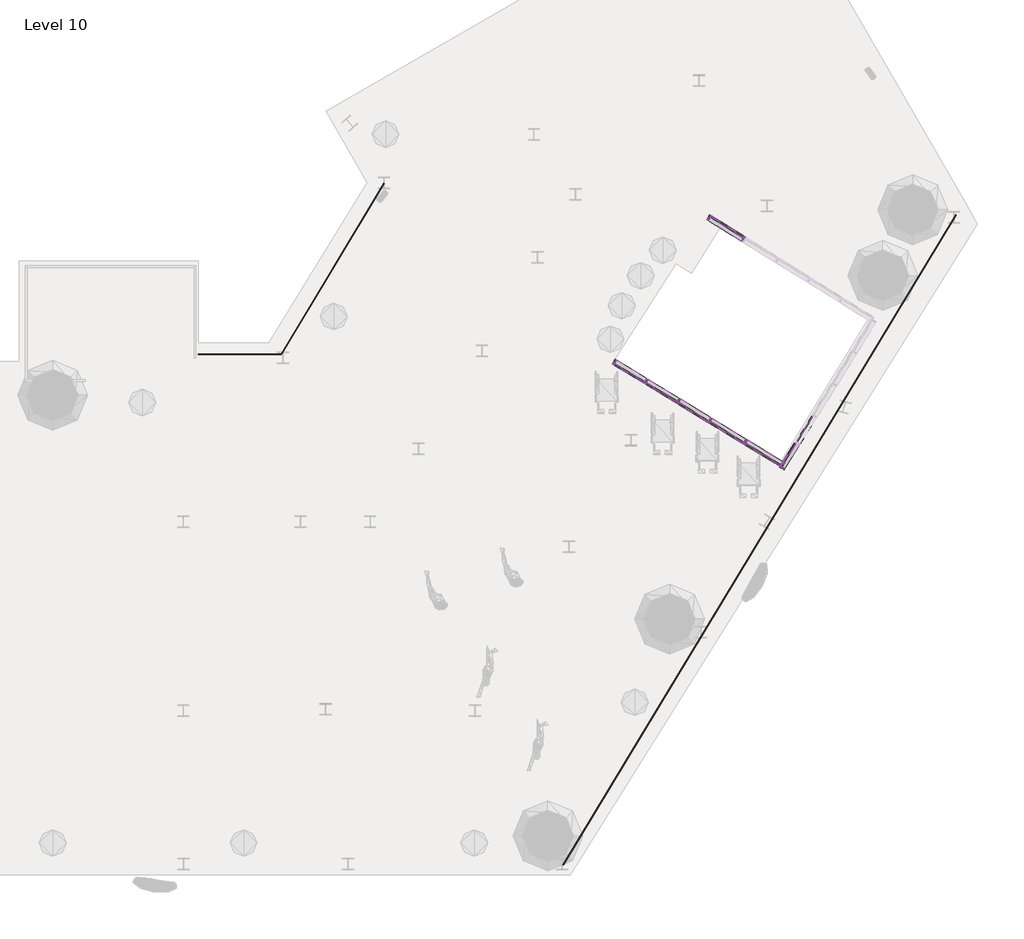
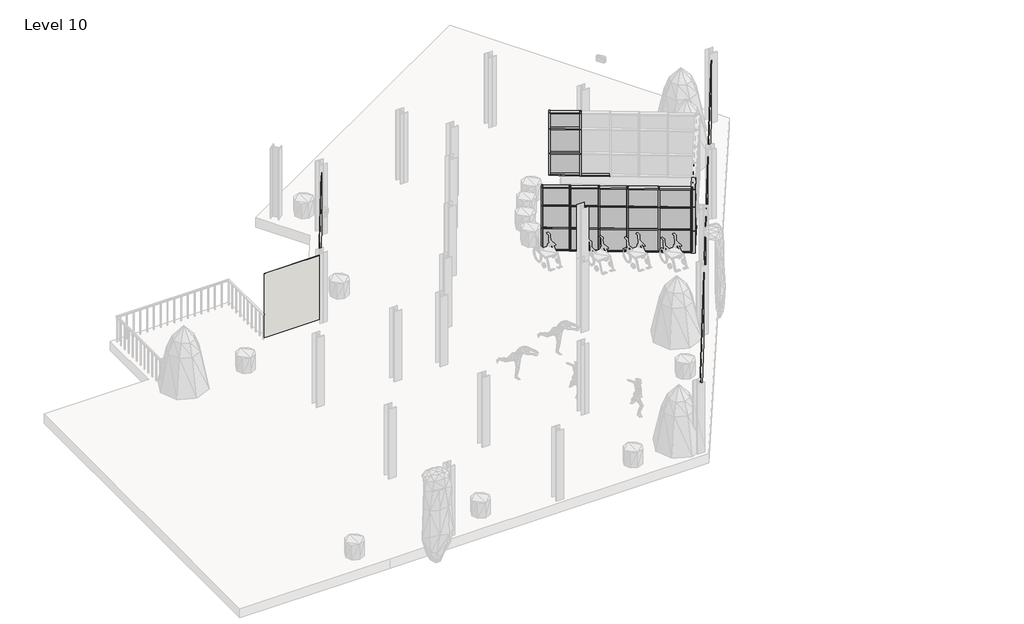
# One storey, part 1 of 3: 58 members, 24 plates, 3 walls.
"""IFC4 building model written with IfcOpenShell, lengths in millimetres."""

from ifc_helpers import new_model, si_unit, origin, place, context, project, spatial, faceted_brep, transform, mapped, element, save
from components import rectangular_mullion_50x150mm_0fbe8b4a, rectangular_mullion_50x150mm_20fcdd90, rectangular_mullion_50x150mm_b5d52ca3, rectangular_mullion_50x150mm_56d806cb, rectangular_mullion_50x150mm_eeb28396, rectangular_mullion_50x150mm_e1d0520d, rectangular_mullion_50x150mm_48f63496, rectangular_mullion_50x150mm_bcb64c23, rectangular_mullion_50x150mm_e5c03652, rectangular_mullion_50x150mm_8fa374aa, rectangular_mullion_50x150mm_e5e7be45, rectangular_mullion_50x150mm_75b956b0, rectangular_mullion_50x150mm_fc7273ca, rectangular_mullion_50x150mm_15ee264f, rectangular_mullion_50x150mm_db572b1a, rectangular_mullion_50x150mm_c662ac7e, rectangular_mullion_50x150mm_ea3bfdbf, rectangular_mullion_50x150mm_97b4ee2b, rectangular_mullion_50x150mm_25e3b809, rectangular_mullion_50x150mm_23a8bc20, rectangular_mullion_50x150mm_5e20a1e8, rectangular_mullion_50x150mm_692311b9, rectangular_mullion_50x150mm_52249668, rectangular_mullion_50x150mm_7fe8a90a, rectangular_mullion_50x150mm_89947aa8, rectangular_mullion_50x150mm_4bc6513c, rectangular_mullion_50x150mm_17594f64, rectangular_mullion_50x150mm_aeccdc6b, rectangular_mullion_50x150mm_4bf38f89, rectangular_mullion_50x150mm_1ad0b32d, rectangular_mullion_50x150mm_6455a0c6, rectangular_mullion_50x150mm_1d09a943, system_panel_glazed_87d8510c, system_panel_glazed_c2e36998, system_panel_glazed_3c1a9072, system_panel_glazed_26a3acbd, system_panel_glazed_06798904, system_panel_glazed_cab14959, system_panel_glazed_1f22a503, system_panel_glazed_f3624c7b, system_panel_glazed_804a8251, system_panel_glazed_26af59c9, system_panel_glazed_3d85dcf9, system_panel_glazed_29cc1cf6, system_panel_glazed_c7ddd8af, system_panel_glazed_708a5042, system_panel_glazed_82657a15, system_panel_glazed_0d46d0ee, system_panel_glazed_447f114c, system_panel_glazed_fababb9e, system_panel_glazed_d1cff054, system_panel_glazed_103d3af6, system_panel_glazed_59d64d3e, system_panel_glazed_77f2dbbb, system_panel_glazed_57311caf, system_panel_glazed_0d0b89d8

model = new_model("IFC4")

# Units and contexts
model_context = context("Model", 3, world=origin())
ifc_project = project(units=[si_unit("LENGTHUNIT", "METRE", prefix="MILLI")], contexts=[model_context])

# Site, building, storey
site = spatial("IfcSite", under=ifc_project)
building = spatial("IfcBuilding", under=site)
storey = spatial("IfcBuildingStorey", under=building, Name="Level 10", Elevation=15000.0)

# Members
placement = place(None, origin())
rectangular_mullion_50x150mm_shape = rectangular_mullion_50x150mm_0fbe8b4a(model_context)
element("IfcMember", 1, ObjectType="Rectangular Mullion : 50x150mm", at=placement, inside=storey, context=model_context, shape_type="MappedRepresentation", body=[
    mapped(rectangular_mullion_50x150mm_shape, transform((17014.0825196, 6670.0604388, 15000.0), x_axis=(0.0, 0.0, -1.0), y_axis=(0.8487697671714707, -0.5287625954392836, 0.0), z_axis=(-0.5287625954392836, -0.8487697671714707, 0.0))),
])
rectangular_mullion_50x150mm_2_shape = rectangular_mullion_50x150mm_20fcdd90(model_context)
element("IfcMember", 2, ObjectType="Rectangular Mullion : 50x150mm", at=placement, inside=storey, context=model_context, shape_type="MappedRepresentation", body=[
    mapped(rectangular_mullion_50x150mm_2_shape, transform((17411.2304728, 7307.56237, 15000.0), x_axis=(0.5287625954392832, 0.8487697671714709, 0.0), y_axis=(0.8487697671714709, -0.5287625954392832, 0.0), z_axis=(0.0, 0.0, -1.0))),
])
rectangular_mullion_50x150mm_3_shape = rectangular_mullion_50x150mm_b5d52ca3(model_context)
element("IfcMember", 3, ObjectType="Rectangular Mullion : 50x150mm", at=placement, inside=storey, context=model_context, shape_type="MappedRepresentation", body=[
    mapped(rectangular_mullion_50x150mm_3_shape, transform((17398.0114079, 7286.3431259, 16992.1531048), x_axis=(0.0, 0.0, 1.0), y_axis=(0.8487697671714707, -0.5287625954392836, 0.0), z_axis=(0.5287625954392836, 0.8487697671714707, 0.0))),
])
element("IfcMember", 4, ObjectType="Rectangular Mullion : 50x150mm", at=placement, inside=storey, context=model_context, shape_type="MappedRepresentation", body=[
    mapped(rectangular_mullion_50x150mm_3_shape, transform((17398.0114079, 7286.3431259, 15963.2560116), x_axis=(0.0, 0.0, 1.0), y_axis=(0.8487697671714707, -0.5287625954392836, 0.0), z_axis=(0.5287625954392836, 0.8487697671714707, 0.0))),
])
rectangular_mullion_50x150mm_4_shape = rectangular_mullion_50x150mm_56d806cb(model_context)
element("IfcMember", 5, ObjectType="Rectangular Mullion : 50x150mm", at=placement, inside=storey, context=model_context, shape_type="MappedRepresentation", body=[
    mapped(rectangular_mullion_50x150mm_4_shape, transform((17424.4495377, 7328.7816142, 15000.0), x_axis=(0.0, 0.0, -1.0), y_axis=(0.8487697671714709, -0.5287625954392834, 0.0), z_axis=(-0.5287625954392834, -0.8487697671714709, 0.0))),
])
element("IfcMember", 6, ObjectType="Rectangular Mullion : 50x150mm", at=placement, inside=storey, context=model_context, shape_type="MappedRepresentation", body=[
    mapped(rectangular_mullion_50x150mm_shape, transform((17398.0114079, 7286.3431259, 17706.8), x_axis=(0.0, 0.0, 1.0), y_axis=(0.8487697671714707, -0.5287625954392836, 0.0), z_axis=(0.5287625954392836, 0.8487697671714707, 0.0))),
])
rectangular_mullion_50x150mm_5_shape = rectangular_mullion_50x150mm_eeb28396(model_context)
element("IfcMember", 7, ObjectType="Rectangular Mullion : 50x150mm", at=placement, inside=storey, context=model_context, shape_type="MappedRepresentation", body=[
    mapped(rectangular_mullion_50x150mm_5_shape, transform((16987.6443899, 6627.6219504, 16992.1531048), x_axis=(-0.5287625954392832, -0.8487697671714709, 0.0), y_axis=(0.8487697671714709, -0.5287625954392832, 0.0), z_axis=(0.0, 0.0, 1.0))),
])
rectangular_mullion_50x150mm_6_shape = rectangular_mullion_50x150mm_e1d0520d(model_context)
element("IfcMember", 8, ObjectType="Rectangular Mullion : 50x150mm", at=placement, inside=storey, context=model_context, shape_type="MappedRepresentation", body=[
    mapped(rectangular_mullion_50x150mm_6_shape, transform((16987.6443899, 6627.6219504, 15963.2560116), x_axis=(-0.5287625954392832, -0.8487697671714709, 0.0), y_axis=(0.8487697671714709, -0.5287625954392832, 0.0), z_axis=(0.0, 0.0, 1.0))),
])
rectangular_mullion_50x150mm_7_shape = rectangular_mullion_50x150mm_48f63496(model_context)
element("IfcMember", 9, ObjectType="Rectangular Mullion : 50x150mm", at=placement, inside=storey, context=model_context, shape_type="MappedRepresentation", body=[
    mapped(rectangular_mullion_50x150mm_7_shape, transform((15068.3475969, 13334.2862446, 15000.0), x_axis=(0.0, 0.0, -1.0), y_axis=(-0.5299192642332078, -0.8480480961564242, 0.0), z_axis=(-0.8480480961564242, 0.5299192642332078, 0.0))),
])
rectangular_mullion_50x150mm_8_shape = rectangular_mullion_50x150mm_bcb64c23(model_context)
element("IfcMember", 10, ObjectType="Rectangular Mullion : 50x150mm", at=placement, inside=storey, context=model_context, shape_type="MappedRepresentation", body=[
    mapped(rectangular_mullion_50x150mm_8_shape, transform((15950.2183564, 12783.2322346, 16995.7532505), x_axis=(0.0, 0.0, 1.0), y_axis=(-0.5299192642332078, -0.8480480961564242, 0.0), z_axis=(0.8480480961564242, -0.5299192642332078, 0.0))),
])
element("IfcMember", 11, ObjectType="Rectangular Mullion : 50x150mm", at=placement, inside=storey, context=model_context, shape_type="MappedRepresentation", body=[
    mapped(rectangular_mullion_50x150mm_8_shape, transform((15950.2183564, 12783.2322346, 15948.427975), x_axis=(0.0, 0.0, 1.0), y_axis=(-0.5299192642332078, -0.8480480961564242, 0.0), z_axis=(0.8480480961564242, -0.5299192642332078, 0.0))),
])
rectangular_mullion_50x150mm_9_shape = rectangular_mullion_50x150mm_e5c03652(model_context)
element("IfcMember", 12, ObjectType="Rectangular Mullion : 50x150mm", at=placement, inside=storey, context=model_context, shape_type="MappedRepresentation", body=[
    mapped(rectangular_mullion_50x150mm_9_shape, transform((15971.4195588, 12769.984253, 15000.0), x_axis=(0.8480480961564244, -0.5299192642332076, 0.0), y_axis=(-0.5299192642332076, -0.8480480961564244, 0.0), z_axis=(0.0, 0.0, -1.0))),
])
rectangular_mullion_50x150mm_10_shape = rectangular_mullion_50x150mm_8fa374aa(model_context)
element("IfcMember", 13, ObjectType="Rectangular Mullion : 50x150mm", at=placement, inside=storey, context=model_context, shape_type="MappedRepresentation", body=[
    mapped(rectangular_mullion_50x150mm_10_shape, transform((15992.6207613, 12756.7362714, 15000.0), x_axis=(0.0, 0.0, -1.0), y_axis=(-0.5299192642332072, -0.8480480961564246, 0.0), z_axis=(-0.8480480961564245, 0.5299192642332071, 0.0))),
])
element("IfcMember", 14, ObjectType="Rectangular Mullion : 50x150mm", at=placement, inside=storey, context=model_context, shape_type="MappedRepresentation", body=[
    mapped(rectangular_mullion_50x150mm_7_shape, transform((15950.2183564, 12783.2322346, 17700.0), x_axis=(0.0, 0.0, 1.0), y_axis=(-0.5299192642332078, -0.8480480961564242, 0.0), z_axis=(0.8480480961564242, -0.5299192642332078, 0.0))),
])
rectangular_mullion_50x150mm_11_shape = rectangular_mullion_50x150mm_e5e7be45(model_context)
element("IfcMember", 15, ObjectType="Rectangular Mullion : 50x150mm", at=placement, inside=storey, context=model_context, shape_type="MappedRepresentation", body=[
    mapped(rectangular_mullion_50x150mm_11_shape, transform((15971.4195588, 12769.984253, 15948.427975), x_axis=(0.8480480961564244, -0.5299192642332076, 0.0), y_axis=(-0.5299192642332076, -0.8480480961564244, 0.0), z_axis=(0.0, 0.0, -1.0))),
])
rectangular_mullion_50x150mm_12_shape = rectangular_mullion_50x150mm_75b956b0(model_context)
element("IfcMember", 16, ObjectType="Rectangular Mullion : 50x150mm", at=placement, inside=storey, context=model_context, shape_type="MappedRepresentation", body=[
    mapped(rectangular_mullion_50x150mm_12_shape, transform((15025.9451921, 13360.7822078, 16995.7532505), x_axis=(-0.8480480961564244, 0.5299192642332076, 0.0), y_axis=(-0.5299192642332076, -0.8480480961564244, 0.0), z_axis=(0.0, 0.0, 1.0))),
])
rectangular_mullion_50x150mm_13_shape = rectangular_mullion_50x150mm_fc7273ca(model_context)
element("IfcMember", 17, ObjectType="Rectangular Mullion : 50x150mm", at=placement, inside=storey, context=model_context, shape_type="MappedRepresentation", body=[
    mapped(rectangular_mullion_50x150mm_13_shape, transform((15025.9451921, 13360.7822078, 15948.427975), x_axis=(-0.8480480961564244, 0.5299192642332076, 0.0), y_axis=(-0.5299192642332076, -0.8480480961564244, 0.0), z_axis=(0.0, 0.0, 1.0))),
])
rectangular_mullion_50x150mm_14_shape = rectangular_mullion_50x150mm_15ee264f(model_context)
element("IfcMember", 18, ObjectType="Rectangular Mullion : 50x150mm", at=placement, inside=storey, context=model_context, shape_type="MappedRepresentation", body=[
    mapped(rectangular_mullion_50x150mm_14_shape, transform((12537.2005428, 9465.2758354, 17732.237311), x_axis=(0.0, 0.0, 1.0), y_axis=(0.5221151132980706, 0.8528750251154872, 0.0), z_axis=(-0.8528750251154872, 0.5221151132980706, 0.0))),
])
rectangular_mullion_50x150mm_15_shape = rectangular_mullion_50x150mm_db572b1a(model_context)
element("IfcMember", 19, ObjectType="Rectangular Mullion : 50x150mm", at=placement, inside=storey, context=model_context, shape_type="MappedRepresentation", body=[
    mapped(rectangular_mullion_50x150mm_15_shape, transform((16985.4919035, 6742.1099795, 15000.0), x_axis=(0.0, 0.0, -1.0), y_axis=(0.522115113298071, 0.852875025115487, 0.0), z_axis=(0.852875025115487, -0.522115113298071, 0.0))),
])
rectangular_mullion_50x150mm_16_shape = rectangular_mullion_50x150mm_c662ac7e(model_context)
element("IfcMember", 20, ObjectType="Rectangular Mullion : 50x150mm", at=placement, inside=storey, context=model_context, shape_type="MappedRepresentation", body=[
    mapped(rectangular_mullion_50x150mm_16_shape, transform((13354.0855375, 8965.1931867, 15000.0), x_axis=(-0.8528750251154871, 0.5221151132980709, 0.0), y_axis=(0.5221151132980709, 0.8528750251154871, 0.0), z_axis=(0.0, 0.0, -1.0))),
])
element("IfcMember", 21, ObjectType="Rectangular Mullion : 50x150mm", at=placement, inside=storey, context=model_context, shape_type="MappedRepresentation", body=[
    mapped(rectangular_mullion_50x150mm_16_shape, transform((14219.753688, 8435.2463467, 15000.0), x_axis=(-0.8528750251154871, 0.5221151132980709, 0.0), y_axis=(0.5221151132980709, 0.8528750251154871, 0.0), z_axis=(0.0, 0.0, -1.0))),
])
element("IfcMember", 22, ObjectType="Rectangular Mullion : 50x150mm", at=placement, inside=storey, context=model_context, shape_type="MappedRepresentation", body=[
    mapped(rectangular_mullion_50x150mm_16_shape, transform((15074.1436914, 7912.2037904, 15000.0), x_axis=(-0.8528750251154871, 0.5221151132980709, 0.0), y_axis=(0.5221151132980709, 0.8528750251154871, 0.0), z_axis=(0.0, 0.0, -1.0))),
])
element("IfcMember", 23, ObjectType="Rectangular Mullion : 50x150mm", at=placement, inside=storey, context=model_context, shape_type="MappedRepresentation", body=[
    mapped(rectangular_mullion_50x150mm_16_shape, transform((16014.7766323, 7336.3648221, 15000.0), x_axis=(-0.8528750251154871, 0.5221151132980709, 0.0), y_axis=(0.5221151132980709, 0.8528750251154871, 0.0), z_axis=(0.0, 0.0, -1.0))),
])
rectangular_mullion_50x150mm_17_shape = rectangular_mullion_50x150mm_ea3bfdbf(model_context)
element("IfcMember", 24, ObjectType="Rectangular Mullion : 50x150mm", at=placement, inside=storey, context=model_context, shape_type="MappedRepresentation", body=[
    mapped(rectangular_mullion_50x150mm_17_shape, transform((16036.0985079, 7323.3119443, 16932.8272436), x_axis=(0.0, 0.0, 1.0), y_axis=(0.522115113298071, 0.852875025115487, 0.0), z_axis=(-0.852875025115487, 0.522115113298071, 0.0))),
])
element("IfcMember", 25, ObjectType="Rectangular Mullion : 50x150mm", at=placement, inside=storey, context=model_context, shape_type="MappedRepresentation", body=[
    mapped(rectangular_mullion_50x150mm_17_shape, transform((16036.0985079, 7323.3119443, 15977.3119055), x_axis=(0.0, 0.0, 1.0), y_axis=(0.522115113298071, 0.852875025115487, 0.0), z_axis=(-0.852875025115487, 0.522115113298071, 0.0))),
])
rectangular_mullion_50x150mm_18_shape = rectangular_mullion_50x150mm_97b4ee2b(model_context)
element("IfcMember", 26, ObjectType="Rectangular Mullion : 50x150mm", at=placement, inside=storey, context=model_context, shape_type="MappedRepresentation", body=[
    mapped(rectangular_mullion_50x150mm_18_shape, transform((12537.2005428, 9465.2758354, 16932.8272436), x_axis=(0.0, 0.0, 1.0), y_axis=(0.5221151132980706, 0.8528750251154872, 0.0), z_axis=(-0.8528750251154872, 0.5221151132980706, 0.0))),
])
element("IfcMember", 27, ObjectType="Rectangular Mullion : 50x150mm", at=placement, inside=storey, context=model_context, shape_type="MappedRepresentation", body=[
    mapped(rectangular_mullion_50x150mm_18_shape, transform((12537.2005428, 9465.2758354, 15977.3119055), x_axis=(0.0, 0.0, 1.0), y_axis=(0.5221151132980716, 0.8528750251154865, 0.0), z_axis=(-0.8528750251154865, 0.5221151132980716, 0.0))),
])
rectangular_mullion_50x150mm_19_shape = rectangular_mullion_50x150mm_25e3b809(model_context)
element("IfcMember", 28, ObjectType="Rectangular Mullion : 50x150mm", at=placement, inside=storey, context=model_context, shape_type="MappedRepresentation", body=[
    mapped(rectangular_mullion_50x150mm_19_shape, transform((13375.4074132, 8952.1403089, 16932.8272436), x_axis=(0.0, 0.0, 1.0), y_axis=(0.5221151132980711, 0.8528750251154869, 0.0), z_axis=(-0.8528750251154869, 0.5221151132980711, 0.0))),
])
element("IfcMember", 29, ObjectType="Rectangular Mullion : 50x150mm", at=placement, inside=storey, context=model_context, shape_type="MappedRepresentation", body=[
    mapped(rectangular_mullion_50x150mm_19_shape, transform((13375.4074132, 8952.1403089, 15977.3119055), x_axis=(0.0, 0.0, 1.0), y_axis=(0.5221151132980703, 0.8528750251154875, 0.0), z_axis=(-0.8528750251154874, 0.5221151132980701, 0.0))),
])
rectangular_mullion_50x150mm_20_shape = rectangular_mullion_50x150mm_23a8bc20(model_context)
element("IfcMember", 30, ObjectType="Rectangular Mullion : 50x150mm", at=placement, inside=storey, context=model_context, shape_type="MappedRepresentation", body=[
    mapped(rectangular_mullion_50x150mm_20_shape, transform((14241.0755637, 8422.1934689, 16932.8272436), x_axis=(0.0, 0.0, 1.0), y_axis=(0.5221151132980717, 0.8528750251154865, 0.0), z_axis=(-0.8528750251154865, 0.5221151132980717, 0.0))),
])
element("IfcMember", 31, ObjectType="Rectangular Mullion : 50x150mm", at=placement, inside=storey, context=model_context, shape_type="MappedRepresentation", body=[
    mapped(rectangular_mullion_50x150mm_20_shape, transform((14241.0755637, 8422.1934689, 15977.3119055), x_axis=(0.0, 0.0, 1.0), y_axis=(0.5221151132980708, 0.8528750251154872, 0.0), z_axis=(-0.8528750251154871, 0.5221151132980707, 0.0))),
])
rectangular_mullion_50x150mm_21_shape = rectangular_mullion_50x150mm_5e20a1e8(model_context)
element("IfcMember", 32, ObjectType="Rectangular Mullion : 50x150mm", at=placement, inside=storey, context=model_context, shape_type="MappedRepresentation", body=[
    mapped(rectangular_mullion_50x150mm_21_shape, transform((15095.465567, 7899.1509125, 16932.8272436), x_axis=(0.0, 0.0, 1.0), y_axis=(0.5221151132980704, 0.8528750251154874, 0.0), z_axis=(-0.8528750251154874, 0.5221151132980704, 0.0))),
])
element("IfcMember", 33, ObjectType="Rectangular Mullion : 50x150mm", at=placement, inside=storey, context=model_context, shape_type="MappedRepresentation", body=[
    mapped(rectangular_mullion_50x150mm_21_shape, transform((15095.465567, 7899.1509125, 15977.3119055), x_axis=(0.0, 0.0, 1.0), y_axis=(0.5221151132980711, 0.8528750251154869, 0.0), z_axis=(-0.8528750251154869, 0.5221151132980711, 0.0))),
])
element("IfcMember", 34, ObjectType="Rectangular Mullion : 50x150mm", at=placement, inside=storey, context=model_context, shape_type="MappedRepresentation", body=[
    mapped(rectangular_mullion_50x150mm_14_shape, transform((13332.7636619, 8978.2460645, 15000.0), x_axis=(0.0, 0.0, -1.0), y_axis=(0.5221151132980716, 0.8528750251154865, 0.0), z_axis=(0.8528750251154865, -0.5221151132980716, 0.0))),
])
rectangular_mullion_50x150mm_22_shape = rectangular_mullion_50x150mm_692311b9(model_context)
element("IfcMember", 35, ObjectType="Rectangular Mullion : 50x150mm", at=placement, inside=storey, context=model_context, shape_type="MappedRepresentation", body=[
    mapped(rectangular_mullion_50x150mm_22_shape, transform((14198.4318124, 8448.2992246, 15000.0), x_axis=(0.0, 0.0, -1.0), y_axis=(0.5221151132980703, 0.8528750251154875, 0.0), z_axis=(0.8528750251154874, -0.5221151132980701, 0.0))),
])
rectangular_mullion_50x150mm_23_shape = rectangular_mullion_50x150mm_52249668(model_context)
element("IfcMember", 36, ObjectType="Rectangular Mullion : 50x150mm", at=placement, inside=storey, context=model_context, shape_type="MappedRepresentation", body=[
    mapped(rectangular_mullion_50x150mm_23_shape, transform((15052.8218157, 7925.2566682, 15000.0), x_axis=(0.0, 0.0, -1.0), y_axis=(0.5221151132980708, 0.8528750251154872, 0.0), z_axis=(0.8528750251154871, -0.5221151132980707, 0.0))),
])
rectangular_mullion_50x150mm_24_shape = rectangular_mullion_50x150mm_7fe8a90a(model_context)
element("IfcMember", 37, ObjectType="Rectangular Mullion : 50x150mm", at=placement, inside=storey, context=model_context, shape_type="MappedRepresentation", body=[
    mapped(rectangular_mullion_50x150mm_24_shape, transform((15993.4547566, 7349.4176999, 15000.0), x_axis=(0.0, 0.0, -1.0), y_axis=(0.5221151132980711, 0.8528750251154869, 0.0), z_axis=(0.8528750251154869, -0.5221151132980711, 0.0))),
])
element("IfcMember", 38, ObjectType="Rectangular Mullion : 50x150mm", at=placement, inside=storey, context=model_context, shape_type="MappedRepresentation", body=[
    mapped(rectangular_mullion_50x150mm_22_shape, transform((13375.4074132, 8952.1403089, 17732.237311), x_axis=(0.0, 0.0, 1.0), y_axis=(0.5221151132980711, 0.8528750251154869, 0.0), z_axis=(-0.8528750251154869, 0.5221151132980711, 0.0))),
])
element("IfcMember", 39, ObjectType="Rectangular Mullion : 50x150mm", at=placement, inside=storey, context=model_context, shape_type="MappedRepresentation", body=[
    mapped(rectangular_mullion_50x150mm_23_shape, transform((14241.0755637, 8422.1934689, 17732.237311), x_axis=(0.0, 0.0, 1.0), y_axis=(0.5221151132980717, 0.8528750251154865, 0.0), z_axis=(-0.8528750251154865, 0.5221151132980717, 0.0))),
])
element("IfcMember", 40, ObjectType="Rectangular Mullion : 50x150mm", at=placement, inside=storey, context=model_context, shape_type="MappedRepresentation", body=[
    mapped(rectangular_mullion_50x150mm_24_shape, transform((15095.465567, 7899.1509125, 17732.237311), x_axis=(0.0, 0.0, 1.0), y_axis=(0.5221151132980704, 0.8528750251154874, 0.0), z_axis=(-0.8528750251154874, 0.5221151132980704, 0.0))),
])
element("IfcMember", 41, ObjectType="Rectangular Mullion : 50x150mm", at=placement, inside=storey, context=model_context, shape_type="MappedRepresentation", body=[
    mapped(rectangular_mullion_50x150mm_15_shape, transform((16036.0985079, 7323.3119443, 17732.237311), x_axis=(0.0, 0.0, 1.0), y_axis=(0.522115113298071, 0.852875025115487, 0.0), z_axis=(-0.852875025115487, 0.522115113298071, 0.0))),
])
rectangular_mullion_50x150mm_25_shape = rectangular_mullion_50x150mm_89947aa8(model_context)
element("IfcMember", 42, ObjectType="Rectangular Mullion : 50x150mm", at=placement, inside=storey, context=model_context, shape_type="MappedRepresentation", body=[
    mapped(rectangular_mullion_50x150mm_25_shape, transform((13354.0855375, 8965.1931867, 15977.3119055), x_axis=(-0.8528750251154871, 0.5221151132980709, 0.0), y_axis=(0.5221151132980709, 0.8528750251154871, 0.0), z_axis=(0.0, 0.0, -1.0))),
])
element("IfcMember", 43, ObjectType="Rectangular Mullion : 50x150mm", at=placement, inside=storey, context=model_context, shape_type="MappedRepresentation", body=[
    mapped(rectangular_mullion_50x150mm_25_shape, transform((14219.753688, 8435.2463467, 15977.3119055), x_axis=(-0.8528750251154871, 0.5221151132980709, 0.0), y_axis=(0.5221151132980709, 0.8528750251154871, 0.0), z_axis=(0.0, 0.0, -1.0))),
])
element("IfcMember", 44, ObjectType="Rectangular Mullion : 50x150mm", at=placement, inside=storey, context=model_context, shape_type="MappedRepresentation", body=[
    mapped(rectangular_mullion_50x150mm_25_shape, transform((15074.1436914, 7912.2037904, 15977.3119055), x_axis=(-0.8528750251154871, 0.5221151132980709, 0.0), y_axis=(0.5221151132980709, 0.8528750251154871, 0.0), z_axis=(0.0, 0.0, -1.0))),
])
element("IfcMember", 45, ObjectType="Rectangular Mullion : 50x150mm", at=placement, inside=storey, context=model_context, shape_type="MappedRepresentation", body=[
    mapped(rectangular_mullion_50x150mm_25_shape, transform((16014.7766323, 7336.3648221, 15977.3119055), x_axis=(-0.8528750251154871, 0.5221151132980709, 0.0), y_axis=(0.5221151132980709, 0.8528750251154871, 0.0), z_axis=(0.0, 0.0, -1.0))),
])
rectangular_mullion_50x150mm_26_shape = rectangular_mullion_50x150mm_4bc6513c(model_context)
element("IfcMember", 46, ObjectType="Rectangular Mullion : 50x150mm", at=placement, inside=storey, context=model_context, shape_type="MappedRepresentation", body=[
    mapped(rectangular_mullion_50x150mm_26_shape, transform((12494.5567916, 9491.3815911, 15000.0), x_axis=(-0.8528750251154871, 0.5221151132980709, 0.0), y_axis=(0.5221151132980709, 0.8528750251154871, 0.0), z_axis=(0.0, 0.0, -1.0))),
])
rectangular_mullion_50x150mm_27_shape = rectangular_mullion_50x150mm_17594f64(model_context)
element("IfcMember", 47, ObjectType="Rectangular Mullion : 50x150mm", at=placement, inside=storey, context=model_context, shape_type="MappedRepresentation", body=[
    mapped(rectangular_mullion_50x150mm_27_shape, transform((12494.5567916, 9491.3815911, 15977.3119055), x_axis=(-0.8528750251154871, 0.5221151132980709, 0.0), y_axis=(0.5221151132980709, 0.8528750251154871, 0.0), z_axis=(0.0, 0.0, -1.0))),
])
element("IfcMember", 48, ObjectType="Rectangular Mullion : 50x150mm", at=placement, inside=storey, context=model_context, shape_type="MappedRepresentation", body=[
    mapped(rectangular_mullion_50x150mm_27_shape, transform((17028.1356548, 6716.0042238, 16932.8272436), x_axis=(0.8528750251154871, -0.5221151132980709, 0.0), y_axis=(0.5221151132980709, 0.8528750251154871, 0.0), z_axis=(0.0, 0.0, 1.0))),
])
element("IfcMember", 49, ObjectType="Rectangular Mullion : 50x150mm", at=placement, inside=storey, context=model_context, shape_type="MappedRepresentation", body=[
    mapped(rectangular_mullion_50x150mm_26_shape, transform((17028.1356548, 6716.0042238, 15977.3119055), x_axis=(0.8528750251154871, -0.5221151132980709, 0.0), y_axis=(0.5221151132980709, 0.8528750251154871, 0.0), z_axis=(0.0, 0.0, 1.0))),
])
rectangular_mullion_50x150mm_28_shape = rectangular_mullion_50x150mm_aeccdc6b(model_context)
element("IfcMember", 50, ObjectType="Rectangular Mullion : 50x150mm", at=placement, inside=storey, context=model_context, shape_type="MappedRepresentation", body=[
    mapped(rectangular_mullion_50x150mm_28_shape, transform((16987.6443899, 6627.6219504, 17706.8), x_axis=(-0.5287625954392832, -0.8487697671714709, 0.0), y_axis=(0.8487697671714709, -0.5287625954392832, 0.0), z_axis=(0.0, 0.0, 1.0))),
])
rectangular_mullion_50x150mm_29_shape = rectangular_mullion_50x150mm_4bf38f89(model_context)
element("IfcMember", 51, ObjectType="Rectangular Mullion : 50x150mm", at=placement, inside=storey, context=model_context, shape_type="MappedRepresentation", body=[
    mapped(rectangular_mullion_50x150mm_29_shape, transform((15971.4195588, 12769.984253, 16995.7532505), x_axis=(0.8480480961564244, -0.5299192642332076, 0.0), y_axis=(-0.5299192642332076, -0.8480480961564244, 0.0), z_axis=(0.0, 0.0, -1.0))),
])
rectangular_mullion_50x150mm_30_shape = rectangular_mullion_50x150mm_1ad0b32d(model_context)
element("IfcMember", 52, ObjectType="Rectangular Mullion : 50x150mm", at=placement, inside=storey, context=model_context, shape_type="MappedRepresentation", body=[
    mapped(rectangular_mullion_50x150mm_30_shape, transform((15025.9451921, 13360.7822078, 17700.0), x_axis=(-0.8480480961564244, 0.5299192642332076, 0.0), y_axis=(-0.5299192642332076, -0.8480480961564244, 0.0), z_axis=(0.0, 0.0, 1.0))),
])
rectangular_mullion_50x150mm_31_shape = rectangular_mullion_50x150mm_6455a0c6(model_context)
element("IfcMember", 53, ObjectType="Rectangular Mullion : 50x150mm", at=placement, inside=storey, context=model_context, shape_type="MappedRepresentation", body=[
    mapped(rectangular_mullion_50x150mm_31_shape, transform((13354.0855375, 8965.1931867, 16932.8272436), x_axis=(-0.8528750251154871, 0.5221151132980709, 0.0), y_axis=(0.5221151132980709, 0.8528750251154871, 0.0), z_axis=(0.0, 0.0, -1.0))),
])
element("IfcMember", 54, ObjectType="Rectangular Mullion : 50x150mm", at=placement, inside=storey, context=model_context, shape_type="MappedRepresentation", body=[
    mapped(rectangular_mullion_50x150mm_31_shape, transform((14219.753688, 8435.2463467, 16932.8272436), x_axis=(-0.8528750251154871, 0.5221151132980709, 0.0), y_axis=(0.5221151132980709, 0.8528750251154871, 0.0), z_axis=(0.0, 0.0, -1.0))),
])
element("IfcMember", 55, ObjectType="Rectangular Mullion : 50x150mm", at=placement, inside=storey, context=model_context, shape_type="MappedRepresentation", body=[
    mapped(rectangular_mullion_50x150mm_31_shape, transform((15074.1436914, 7912.2037904, 16932.8272436), x_axis=(-0.8528750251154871, 0.5221151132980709, 0.0), y_axis=(0.5221151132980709, 0.8528750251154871, 0.0), z_axis=(0.0, 0.0, -1.0))),
])
element("IfcMember", 56, ObjectType="Rectangular Mullion : 50x150mm", at=placement, inside=storey, context=model_context, shape_type="MappedRepresentation", body=[
    mapped(rectangular_mullion_50x150mm_31_shape, transform((16014.7766323, 7336.3648221, 16932.8272436), x_axis=(-0.8528750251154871, 0.5221151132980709, 0.0), y_axis=(0.5221151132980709, 0.8528750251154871, 0.0), z_axis=(0.0, 0.0, -1.0))),
])
rectangular_mullion_50x150mm_32_shape = rectangular_mullion_50x150mm_1d09a943(model_context)
element("IfcMember", 57, ObjectType="Rectangular Mullion : 50x150mm", at=placement, inside=storey, context=model_context, shape_type="MappedRepresentation", body=[
    mapped(rectangular_mullion_50x150mm_32_shape, transform((17028.1356548, 6716.0042238, 17732.237311), x_axis=(0.8528750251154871, -0.5221151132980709, 0.0), y_axis=(0.5221151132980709, 0.8528750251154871, 0.0), z_axis=(0.0, 0.0, 1.0))),
])
element("IfcMember", 58, ObjectType="Rectangular Mullion : 50x150mm", at=placement, inside=storey, context=model_context, shape_type="MappedRepresentation", body=[
    mapped(rectangular_mullion_50x150mm_32_shape, transform((12494.5567916, 9491.3815911, 16932.8272436), x_axis=(-0.8528750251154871, 0.5221151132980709, 0.0), y_axis=(0.5221151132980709, 0.8528750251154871, 0.0), z_axis=(0.0, 0.0, -1.0))),
])

# Plates
system_panel_glazed_shape = system_panel_glazed_87d8510c(model_context)
element("IfcPlate", 59, ObjectType="System Panel : Glazed", at=placement, inside=storey, context=model_context, shape_type="MappedRepresentation", body=[
    mapped(system_panel_glazed_shape, transform((17206.0469638, 6978.2017823, 15050.0), x_axis=(0.5287625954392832, 0.8487697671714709, 0.0), y_axis=(-0.8487697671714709, 0.5287625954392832, 0.0), z_axis=(0.0, 0.0, 1.0))),
])
system_panel_glazed_2_shape = system_panel_glazed_c2e36998(model_context)
element("IfcPlate", 60, ObjectType="System Panel : Glazed", at=placement, inside=storey, context=model_context, shape_type="MappedRepresentation", body=[
    mapped(system_panel_glazed_2_shape, transform((17638.5364632, 7672.4339669, 15050.0), x_axis=(0.5287625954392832, 0.8487697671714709, 0.0), y_axis=(-0.8487697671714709, 0.5287625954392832, 0.0), z_axis=(0.0, 0.0, 1.0))),
])
system_panel_glazed_3_shape = system_panel_glazed_3c1a9072(model_context)
element("IfcPlate", 61, ObjectType="System Panel : Glazed", at=placement, inside=storey, context=model_context, shape_type="MappedRepresentation", body=[
    mapped(system_panel_glazed_3_shape, transform((17206.0469638, 6978.2017823, 15988.2560116), x_axis=(0.5287625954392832, 0.8487697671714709, 0.0), y_axis=(-0.8487697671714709, 0.5287625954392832, 0.0), z_axis=(0.0, 0.0, 1.0))),
])
system_panel_glazed_4_shape = system_panel_glazed_26a3acbd(model_context)
element("IfcPlate", 62, ObjectType="System Panel : Glazed", at=placement, inside=storey, context=model_context, shape_type="MappedRepresentation", body=[
    mapped(system_panel_glazed_4_shape, transform((17638.5364632, 7672.4339669, 15988.2560116), x_axis=(0.5287625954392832, 0.8487697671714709, 0.0), y_axis=(-0.8487697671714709, 0.5287625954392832, 0.0), z_axis=(0.0, 0.0, 1.0))),
])
system_panel_glazed_5_shape = system_panel_glazed_06798904(model_context)
element("IfcPlate", 63, ObjectType="System Panel : Glazed", at=placement, inside=storey, context=model_context, shape_type="MappedRepresentation", body=[
    mapped(system_panel_glazed_5_shape, transform((15509.2829767, 13058.7592396, 15050.0), x_axis=(0.8480480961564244, -0.5299192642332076, 0.0), y_axis=(0.5299192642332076, 0.8480480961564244, 0.0), z_axis=(0.0, 0.0, 1.0))),
])
system_panel_glazed_6_shape = system_panel_glazed_cab14959(model_context)
element("IfcPlate", 64, ObjectType="System Panel : Glazed", at=placement, inside=storey, context=model_context, shape_type="MappedRepresentation", body=[
    mapped(system_panel_glazed_6_shape, transform((15509.2829767, 13058.7592396, 15973.427975), x_axis=(0.8480480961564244, -0.5299192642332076, 0.0), y_axis=(0.5299192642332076, 0.8480480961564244, 0.0), z_axis=(0.0, 0.0, 1.0))),
])
system_panel_glazed_7_shape = system_panel_glazed_1f22a503(model_context)
element("IfcPlate", 65, ObjectType="System Panel : Glazed", at=placement, inside=storey, context=model_context, shape_type="MappedRepresentation", body=[
    mapped(system_panel_glazed_7_shape, transform((16510.7952057, 7032.7109619, 15050.0), x_axis=(-0.8528750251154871, 0.5221151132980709, 0.0), y_axis=(-0.5221151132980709, -0.8528750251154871, 0.0), z_axis=(0.0, 0.0, 1.0))),
])
system_panel_glazed_8_shape = system_panel_glazed_f3624c7b(model_context)
element("IfcPlate", 66, ObjectType="System Panel : Glazed", at=placement, inside=storey, context=model_context, shape_type="MappedRepresentation", body=[
    mapped(system_panel_glazed_8_shape, transform((12934.9821024, 9221.76095, 15050.0), x_axis=(-0.8528750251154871, 0.5221151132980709, 0.0), y_axis=(-0.5221151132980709, -0.8528750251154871, 0.0), z_axis=(0.0, 0.0, 1.0))),
])
system_panel_glazed_9_shape = system_panel_glazed_804a8251(model_context)
element("IfcPlate", 67, ObjectType="System Panel : Glazed", at=placement, inside=storey, context=model_context, shape_type="MappedRepresentation", body=[
    mapped(system_panel_glazed_9_shape, transform((13786.9196128, 8700.2197667, 15050.0), x_axis=(-0.8528750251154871, 0.5221151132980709, 0.0), y_axis=(-0.5221151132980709, -0.8528750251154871, 0.0), z_axis=(0.0, 0.0, 1.0))),
])
system_panel_glazed_10_shape = system_panel_glazed_26af59c9(model_context)
element("IfcPlate", 68, ObjectType="System Panel : Glazed", at=placement, inside=storey, context=model_context, shape_type="MappedRepresentation", body=[
    mapped(system_panel_glazed_10_shape, transform((14646.9486897, 8173.7250685, 15050.0), x_axis=(-0.8528750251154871, 0.5221151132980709, 0.0), y_axis=(-0.5221151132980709, -0.8528750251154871, 0.0), z_axis=(0.0, 0.0, 1.0))),
])
system_panel_glazed_11_shape = system_panel_glazed_3d85dcf9(model_context)
element("IfcPlate", 69, ObjectType="System Panel : Glazed", at=placement, inside=storey, context=model_context, shape_type="MappedRepresentation", body=[
    mapped(system_panel_glazed_11_shape, transform((15544.4601618, 7624.2843062, 15050.0), x_axis=(-0.8528750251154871, 0.5221151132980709, 0.0), y_axis=(-0.5221151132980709, -0.8528750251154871, 0.0), z_axis=(0.0, 0.0, 1.0))),
])
system_panel_glazed_12_shape = system_panel_glazed_29cc1cf6(model_context)
element("IfcPlate", 70, ObjectType="System Panel : Glazed", at=placement, inside=storey, context=model_context, shape_type="MappedRepresentation", body=[
    mapped(system_panel_glazed_12_shape, transform((16510.7952057, 7032.7109619, 16002.3119055), x_axis=(-0.8528750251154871, 0.5221151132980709, 0.0), y_axis=(-0.5221151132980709, -0.8528750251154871, 0.0), z_axis=(0.0, 0.0, 1.0))),
])
system_panel_glazed_13_shape = system_panel_glazed_c7ddd8af(model_context)
element("IfcPlate", 71, ObjectType="System Panel : Glazed", at=placement, inside=storey, context=model_context, shape_type="MappedRepresentation", body=[
    mapped(system_panel_glazed_13_shape, transform((15544.4601618, 7624.2843062, 16002.3119055), x_axis=(-0.8528750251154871, 0.5221151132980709, 0.0), y_axis=(-0.5221151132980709, -0.8528750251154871, 0.0), z_axis=(0.0, 0.0, 1.0))),
])
system_panel_glazed_14_shape = system_panel_glazed_708a5042(model_context)
element("IfcPlate", 72, ObjectType="System Panel : Glazed", at=placement, inside=storey, context=model_context, shape_type="MappedRepresentation", body=[
    mapped(system_panel_glazed_14_shape, transform((14646.9486897, 8173.7250685, 16002.3119055), x_axis=(-0.8528750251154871, 0.5221151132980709, 0.0), y_axis=(-0.5221151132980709, -0.8528750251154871, 0.0), z_axis=(0.0, 0.0, 1.0))),
])
system_panel_glazed_15_shape = system_panel_glazed_82657a15(model_context)
element("IfcPlate", 73, ObjectType="System Panel : Glazed", at=placement, inside=storey, context=model_context, shape_type="MappedRepresentation", body=[
    mapped(system_panel_glazed_15_shape, transform((13786.9196128, 8700.2197667, 16002.3119055), x_axis=(-0.8528750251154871, 0.5221151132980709, 0.0), y_axis=(-0.5221151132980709, -0.8528750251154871, 0.0), z_axis=(0.0, 0.0, 1.0))),
])
system_panel_glazed_16_shape = system_panel_glazed_0d46d0ee(model_context)
element("IfcPlate", 74, ObjectType="System Panel : Glazed", at=placement, inside=storey, context=model_context, shape_type="MappedRepresentation", body=[
    mapped(system_panel_glazed_16_shape, transform((12934.9821024, 9221.76095, 16002.3119055), x_axis=(-0.8528750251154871, 0.5221151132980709, 0.0), y_axis=(-0.5221151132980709, -0.8528750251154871, 0.0), z_axis=(0.0, 0.0, 1.0))),
])
system_panel_glazed_17_shape = system_panel_glazed_447f114c(model_context)
element("IfcPlate", 75, ObjectType="System Panel : Glazed", at=placement, inside=storey, context=model_context, shape_type="MappedRepresentation", body=[
    mapped(system_panel_glazed_17_shape, transform((17206.0469638, 6978.2017823, 17017.1531048), x_axis=(0.5287625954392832, 0.8487697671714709, 0.0), y_axis=(-0.8487697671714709, 0.5287625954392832, 0.0), z_axis=(0.0, 0.0, 1.0))),
])
system_panel_glazed_18_shape = system_panel_glazed_fababb9e(model_context)
element("IfcPlate", 76, ObjectType="System Panel : Glazed", at=placement, inside=storey, context=model_context, shape_type="MappedRepresentation", body=[
    mapped(system_panel_glazed_18_shape, transform((17638.5364632, 7672.4339669, 17017.1531048), x_axis=(0.5287625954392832, 0.8487697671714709, 0.0), y_axis=(-0.8487697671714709, 0.5287625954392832, 0.0), z_axis=(0.0, 0.0, 1.0))),
])
system_panel_glazed_19_shape = system_panel_glazed_d1cff054(model_context)
element("IfcPlate", 77, ObjectType="System Panel : Glazed", at=placement, inside=storey, context=model_context, shape_type="MappedRepresentation", body=[
    mapped(system_panel_glazed_19_shape, transform((15509.2829767, 13058.7592396, 17020.7532505), x_axis=(0.8480480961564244, -0.5299192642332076, 0.0), y_axis=(0.5299192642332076, 0.8480480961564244, 0.0), z_axis=(0.0, 0.0, 1.0))),
])
system_panel_glazed_20_shape = system_panel_glazed_103d3af6(model_context)
element("IfcPlate", 78, ObjectType="System Panel : Glazed", at=placement, inside=storey, context=model_context, shape_type="MappedRepresentation", body=[
    mapped(system_panel_glazed_20_shape, transform((16510.7952057, 7032.7109619, 16957.8272436), x_axis=(-0.8528750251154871, 0.5221151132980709, 0.0), y_axis=(-0.5221151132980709, -0.8528750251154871, 0.0), z_axis=(0.0, 0.0, 1.0))),
])
system_panel_glazed_21_shape = system_panel_glazed_59d64d3e(model_context)
element("IfcPlate", 79, ObjectType="System Panel : Glazed", at=placement, inside=storey, context=model_context, shape_type="MappedRepresentation", body=[
    mapped(system_panel_glazed_21_shape, transform((15544.4601618, 7624.2843062, 16957.8272436), x_axis=(-0.8528750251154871, 0.5221151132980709, 0.0), y_axis=(-0.5221151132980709, -0.8528750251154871, 0.0), z_axis=(0.0, 0.0, 1.0))),
])
system_panel_glazed_22_shape = system_panel_glazed_77f2dbbb(model_context)
element("IfcPlate", 80, ObjectType="System Panel : Glazed", at=placement, inside=storey, context=model_context, shape_type="MappedRepresentation", body=[
    mapped(system_panel_glazed_22_shape, transform((14646.9486897, 8173.7250685, 16957.8272436), x_axis=(-0.8528750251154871, 0.5221151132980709, 0.0), y_axis=(-0.5221151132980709, -0.8528750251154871, 0.0), z_axis=(0.0, 0.0, 1.0))),
])
system_panel_glazed_23_shape = system_panel_glazed_57311caf(model_context)
element("IfcPlate", 81, ObjectType="System Panel : Glazed", at=placement, inside=storey, context=model_context, shape_type="MappedRepresentation", body=[
    mapped(system_panel_glazed_23_shape, transform((13786.9196128, 8700.2197667, 16957.8272436), x_axis=(-0.8528750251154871, 0.5221151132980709, 0.0), y_axis=(-0.5221151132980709, -0.8528750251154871, 0.0), z_axis=(0.0, 0.0, 1.0))),
])
system_panel_glazed_24_shape = system_panel_glazed_0d0b89d8(model_context)
element("IfcPlate", 82, ObjectType="System Panel : Glazed", at=placement, inside=storey, context=model_context, shape_type="MappedRepresentation", body=[
    mapped(system_panel_glazed_24_shape, transform((12934.9821024, 9221.76095, 16957.8272436), x_axis=(-0.8528750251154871, 0.5221151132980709, 0.0), y_axis=(-0.5221151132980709, -0.8528750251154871, 0.0), z_axis=(0.0, 0.0, 1.0))),
])

# Walls
element("IfcWall", 83, ObjectType="Wall-Partn_12P-70MStd-12P 2", at=placement, inside=storey, context=model_context, shape_type="Brep", body=[
    faceted_brep([(1360.5515361, 9675.0288254, 15000.0), (3588.7497564, 9675.0288254, 15000.0), (3588.7497564, 9675.0288254, 17750.6954246), (1360.5515361, 9675.0288254, 17750.6954246), (1360.5515361, 9690.0288254, 15000.0), (1360.5515361, 9690.0288254, 17750.6954246), (3597.7626657, 9690.0288254, 17750.6954246), (3597.7626657, 9690.0288254, 17560.0), (3597.7626657, 9690.0288254, 15000.0), (3580.2631648, 9690.0288254, 15000.0)], [[[0, 1, 2, 3]], [[4, 5, 6, 7, 8, 9]], [[1, 0, 4, 9, 8]], [[3, 2, 6, 5]], [[0, 3, 5, 4]], [[2, 1, 8, 7, 6]]]),
])
element("IfcWall", 84, ObjectType="Wall-Partn_12P-70MStd-12P 2", at=placement, inside=storey, context=model_context, shape_type="Brep", body=[
    faceted_brep([(3597.7626657, 9690.0288254, 15000.0), (6346.1372879, 14264.092319, 15000.0), (6346.1372879, 14264.092319, 17560.0), (5915.6370853, 13547.6196646, 17560.0), (3597.7626657, 9690.0288254, 17560.0), (3580.2631648, 9690.0288254, 15000.0), (3580.2631648, 9690.0288254, 17560.0), (6333.923665, 14272.8894972, 17560.0), (6337.5621324, 14278.944924, 17560.0), (6337.5621324, 14278.944924, 15000.0), (6329.4818576, 14265.1878185, 17560.0)], [[[0, 1, 2, 3, 4]], [[5, 6, 7, 8, 9]], [[1, 0, 5, 9]], [[0, 4, 6, 5]], [[2, 1, 9, 8]], [[4, 3, 10, 7, 6]], [[3, 2, 8, 7, 10]]]),
])
element("IfcWall", 85, ObjectType="Wall-Partn_12P-70MStd-12P 2", at=placement, inside=storey, context=model_context, shape_type="Brep", body=[
    faceted_brep([(11146.8645795, -3994.9711746, 15000.0), (21660.5122221, 13419.4691213, 15000.0), (21660.5122221, 13419.4691213, 17706.8), (11146.8645795, -3994.9711746, 17706.8), (11129.3428598, -3994.9711746, 15000.0), (11129.3428598, -3994.9711746, 17706.8), (21643.0933554, 13419.6394834, 17706.8), (21651.9470498, 13434.3044349, 17706.8), (21651.9470498, 13434.3044349, 15000.0), (21643.0933554, 13419.6394834, 15000.0)], [[[0, 1, 2, 3]], [[4, 5, 6, 7, 8, 9]], [[1, 0, 4, 9, 8]], [[3, 2, 7, 6, 5]], [[0, 3, 5, 4]], [[2, 1, 8, 7]]]),
])

save(model, "model.ifc")
